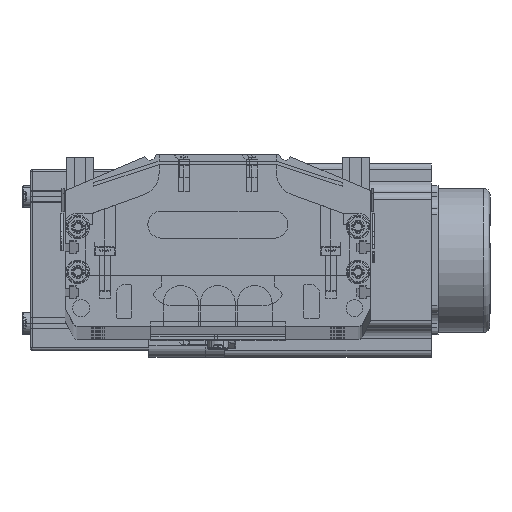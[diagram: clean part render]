
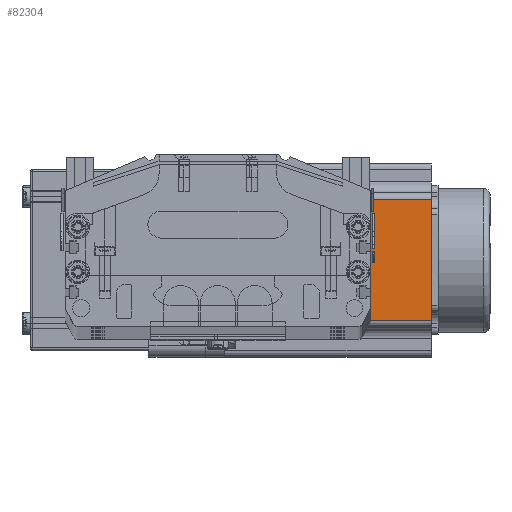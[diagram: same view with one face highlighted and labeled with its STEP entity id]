
A CAD part, top view. The second image highlights one B-rep face of the part: STEP entity #82304.
In plain terms, the highlighted planar face has unit normal (0, 0, 1) as drawn and (-1, 0, 0) by its records, which use the part's own axes.
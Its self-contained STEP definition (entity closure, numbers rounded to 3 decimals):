
#14717 = LINE ( 'NONE', #14773, #14772 ) ;
#14721 = DIRECTION ( 'NONE',  ( 0., 0., -1. ) ) ;
#14722 = VECTOR ( 'NONE', #14721, 1000. ) ;
#14753 = DIRECTION ( 'NONE',  ( 0., -1., 0. ) ) ;
#14772 = VECTOR ( 'NONE', #14788, 1000. ) ;
#14773 = CARTESIAN_POINT ( 'NONE',  ( 0., 0., 91.5 ) ) ;
#14785 = VECTOR ( 'NONE', #14753, 1000. ) ;
#14786 = CARTESIAN_POINT ( 'NONE',  ( 0., 0., 0. ) ) ;
#14787 = LINE ( 'NONE', #14786, #14785 ) ;
#14788 = DIRECTION ( 'NONE',  ( 0., -1., 0. ) ) ;
#14794 = CARTESIAN_POINT ( 'NONE',  ( 0., 69.74, 91.5 ) ) ;
#14795 = LINE ( 'NONE', #14794, #14722 ) ;
#15122 = CARTESIAN_POINT ( 'NONE',  ( 0., 69.74, 0. ) ) ;
#15226 = PLANE ( 'NONE',  #15463 ) ;
#15440 = DIRECTION ( 'NONE',  ( 0., 0., -1. ) ) ;
#15442 = DIRECTION ( 'NONE',  ( 1., 0., 0. ) ) ;
#15444 = CARTESIAN_POINT ( 'NONE',  ( 0., 16.16, 91.5 ) ) ;
#15445 = LINE ( 'NONE', #15444, #15518 ) ;
#15453 = CARTESIAN_POINT ( 'NONE',  ( 0., 69.74, 91.5 ) ) ;
#15457 = CARTESIAN_POINT ( 'NONE',  ( 0., 0., 91.5 ) ) ;
#15459 = CARTESIAN_POINT ( 'NONE',  ( 0., 16.16, 91.5 ) ) ;
#15463 = AXIS2_PLACEMENT_3D ( 'NONE', #15457, #15442, #15440 ) ;
#15465 = FACE_OUTER_BOUND ( 'NONE', #82139, .T. ) ;
#15517 = DIRECTION ( 'NONE',  ( 0., 0., 1. ) ) ;
#15518 = VECTOR ( 'NONE', #15517, 1000. ) ;
#15519 = CARTESIAN_POINT ( 'NONE',  ( 0., 16.16, 0. ) ) ;
#82139 = EDGE_LOOP ( 'NONE', ( #82352, #82307, #82169, #82303 ) ) ;
#82169 = ORIENTED_EDGE ( 'NONE', *, *, #82178, .F. ) ;
#82170 = EDGE_CURVE ( 'NONE', #82305, #82194, #14795, .T. ) ;
#82178 = EDGE_CURVE ( 'NONE', #82305, #82308, #14717, .T. ) ;
#82182 = EDGE_CURVE ( 'NONE', #82194, #82316, #14787, .T. ) ;
#82194 = VERTEX_POINT ( 'NONE', #15122 ) ;
#82303 = ORIENTED_EDGE ( 'NONE', *, *, #82170, .T. ) ;
#82304 = ADVANCED_FACE ( 'NONE', ( #15465 ), #15226, .F. ) ;
#82305 = VERTEX_POINT ( 'NONE', #15453 ) ;
#82307 = ORIENTED_EDGE ( 'NONE', *, *, #82315, .T. ) ;
#82308 = VERTEX_POINT ( 'NONE', #15459 ) ;
#82315 = EDGE_CURVE ( 'NONE', #82316, #82308, #15445, .T. ) ;
#82316 = VERTEX_POINT ( 'NONE', #15519 ) ;
#82352 = ORIENTED_EDGE ( 'NONE', *, *, #82182, .T. ) ;
